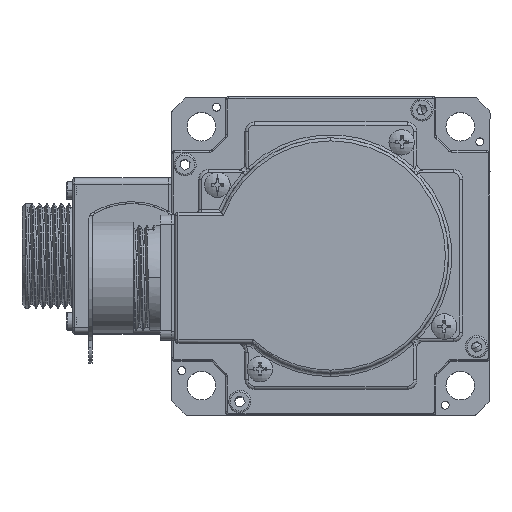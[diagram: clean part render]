
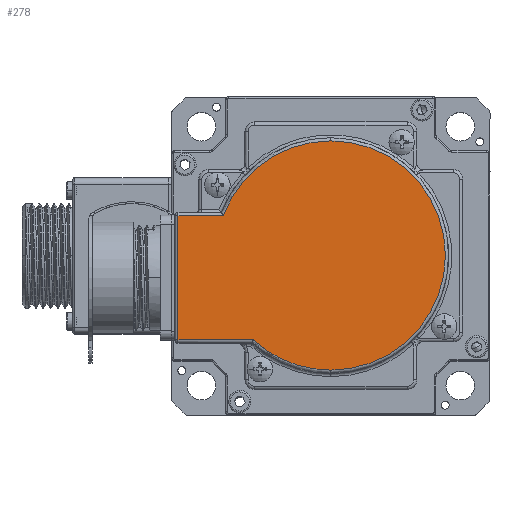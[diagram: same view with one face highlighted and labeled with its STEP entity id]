
A CAD part, top view. The second image highlights one B-rep face of the part: STEP entity #278.
In plain terms, the highlighted planar face has unit normal (0, 0, 1).
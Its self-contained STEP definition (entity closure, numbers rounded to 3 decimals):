
#278 = ADVANCED_FACE ( 'NONE', ( #6268 ), #20426, .T. ) ;
#2578 = CIRCLE ( 'NONE', #19612, 36. ) ;
#3210 = CARTESIAN_POINT ( 'NONE',  ( -42.825, 25.199, 49.75 ) ) ;
#3691 = DIRECTION ( 'NONE',  ( 0., 1., 0. ) ) ;
#5011 = VERTEX_POINT ( 'NONE', #18058 ) ;
#5496 = AXIS2_PLACEMENT_3D ( 'NONE', #32873, #30178, #32989 ) ;
#5780 = VERTEX_POINT ( 'NONE', #3210 ) ;
#6268 = FACE_OUTER_BOUND ( 'NONE', #10922, .T. ) ;
#6292 = DIRECTION ( 'NONE',  ( 0., 0., 1. ) ) ;
#6901 = ORIENTED_EDGE ( 'NONE', *, *, #7880, .T. ) ;
#7631 = AXIS2_PLACEMENT_3D ( 'NONE', #24908, #8825, #30371 ) ;
#7677 = AXIS2_PLACEMENT_3D ( 'NONE', #13230, #16961, #30868 ) ;
#7880 = EDGE_CURVE ( 'NONE', #12634, #17597, #29658, .T. ) ;
#8083 = LINE ( 'NONE', #30169, #30386 ) ;
#8825 = DIRECTION ( 'NONE',  ( 0., 0., 1. ) ) ;
#9871 = EDGE_CURVE ( 'NONE', #15518, #5780, #2578, .T. ) ;
#10710 = CIRCLE ( 'NONE', #5496, 36. ) ;
#10922 = EDGE_LOOP ( 'NONE', ( #33236, #17828, #25053, #6901, #26016, #19257 ) ) ;
#12420 = CARTESIAN_POINT ( 'NONE',  ( -58.065, 25.199, 49.75 ) ) ;
#12634 = VERTEX_POINT ( 'NONE', #17229 ) ;
#12792 = EDGE_CURVE ( 'NONE', #5780, #18632, #28922, .T. ) ;
#13230 = CARTESIAN_POINT ( 'NONE',  ( -9.065, 12.699, 49.75 ) ) ;
#14022 = DIRECTION ( 'NONE',  ( 0., -1., 0. ) ) ;
#14193 = VECTOR ( 'NONE', #28792, 1000. ) ;
#15518 = VERTEX_POINT ( 'NONE', #18625 ) ;
#16961 = DIRECTION ( 'NONE',  ( 0., 0., 1. ) ) ;
#17229 = CARTESIAN_POINT ( 'NONE',  ( -33.432, -13.801, 49.75 ) ) ;
#17597 = VERTEX_POINT ( 'NONE', #31050 ) ;
#17828 = ORIENTED_EDGE ( 'NONE', *, *, #31810, .T. ) ;
#18058 = CARTESIAN_POINT ( 'NONE',  ( -57.065, -13.801, 49.75 ) ) ;
#18625 = CARTESIAN_POINT ( 'NONE',  ( -9.065, 48.699, 49.75 ) ) ;
#18632 = VERTEX_POINT ( 'NONE', #33326 ) ;
#19257 = ORIENTED_EDGE ( 'NONE', *, *, #9871, .T. ) ;
#19548 = VECTOR ( 'NONE', #27215, 1000. ) ;
#19612 = AXIS2_PLACEMENT_3D ( 'NONE', #19768, #6292, #3691 ) ;
#19768 = CARTESIAN_POINT ( 'NONE',  ( -9.065, 12.699, 49.75 ) ) ;
#20426 = PLANE ( 'NONE',  #7677 ) ;
#21533 = EDGE_CURVE ( 'NONE', #5011, #12634, #33862, .T. ) ;
#21627 = EDGE_CURVE ( 'NONE', #17597, #15518, #10710, .T. ) ;
#21720 = CARTESIAN_POINT ( 'NONE',  ( -33.819, -13.801, 49.75 ) ) ;
#24908 = CARTESIAN_POINT ( 'NONE',  ( -9.065, 12.699, 49.75 ) ) ;
#25053 = ORIENTED_EDGE ( 'NONE', *, *, #21533, .T. ) ;
#26016 = ORIENTED_EDGE ( 'NONE', *, *, #21627, .T. ) ;
#27215 = DIRECTION ( 'NONE',  ( 1., 0., 0. ) ) ;
#28792 = DIRECTION ( 'NONE',  ( -1., 0., 0. ) ) ;
#28922 = LINE ( 'NONE', #12420, #14193 ) ;
#29658 = CIRCLE ( 'NONE', #7631, 36. ) ;
#30169 = CARTESIAN_POINT ( 'NONE',  ( -57.065, -14.801, 49.75 ) ) ;
#30178 = DIRECTION ( 'NONE',  ( 0., 0., 1. ) ) ;
#30371 = DIRECTION ( 'NONE',  ( 0., 1., 0. ) ) ;
#30386 = VECTOR ( 'NONE', #14022, 1000. ) ;
#30868 = DIRECTION ( 'NONE',  ( 0., 1., 0. ) ) ;
#31050 = CARTESIAN_POINT ( 'NONE',  ( -9.065, -23.301, 49.75 ) ) ;
#31810 = EDGE_CURVE ( 'NONE', #18632, #5011, #8083, .T. ) ;
#32873 = CARTESIAN_POINT ( 'NONE',  ( -9.065, 12.699, 49.75 ) ) ;
#32989 = DIRECTION ( 'NONE',  ( 0., 1., 0. ) ) ;
#33236 = ORIENTED_EDGE ( 'NONE', *, *, #12792, .T. ) ;
#33326 = CARTESIAN_POINT ( 'NONE',  ( -57.065, 25.199, 49.75 ) ) ;
#33862 = LINE ( 'NONE', #21720, #19548 ) ;
